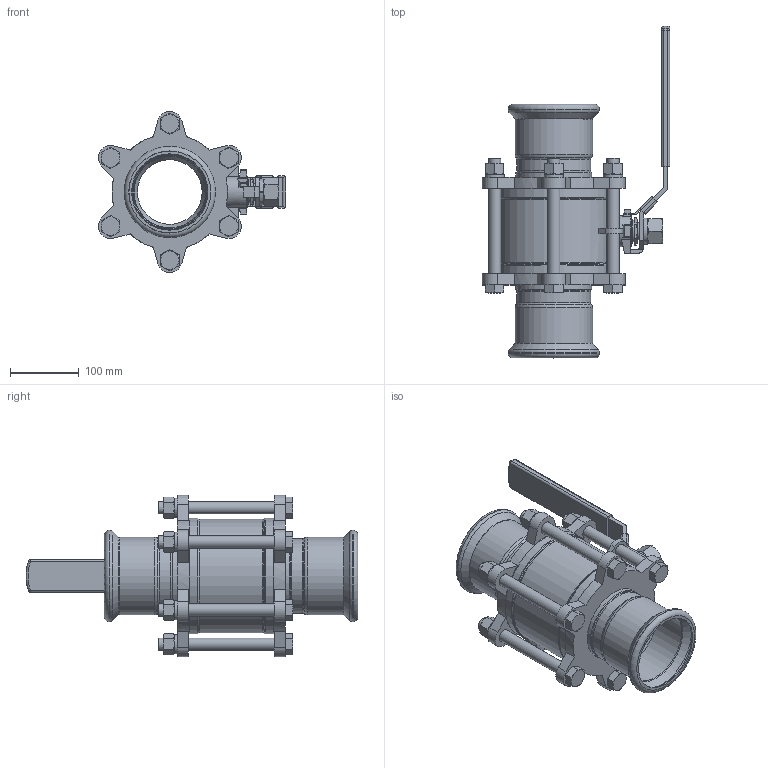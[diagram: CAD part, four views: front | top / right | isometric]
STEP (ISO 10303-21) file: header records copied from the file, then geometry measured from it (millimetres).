
FILE_DESCRIPTION(('STEP AP214'),'1');
FILE_NAME('4.stp','2025-03-26T07:38:36',(' '),(' '),'Spatial InterOp 3D',' ',' ');
FILE_SCHEMA(('AUTOMOTIVE_DESIGN { 1 0 10303 214 1 1 1 1 }'));
Length unit declared in the file: millimetre
Products named in the file (21): 3PC卡压球阀4; 压紧螺母; 填料; 阀杆; 小片; 球; 焊接阀盖; 半截接头; 阀体; 阀座; 垫圈 ： 单圈弹簧 - M18.0 x 4.5; 螺母 ： 标准 - M18.0 x 15.8; 螺栓 ： 六角头 - M18.0 x 184.0; 垫圈 ： 单圈弹簧 - M24.0 x 6.0; 螺母 ： 标准 - M24.0 x 21.5; 手柄套; 锁块; 手柄
Assembly tree (35 placements, depth 2):
  3PC卡压球阀4
    压紧螺母
    填料
    阀杆
    小片
    球
    焊接阀盖
    半截接头
    阀体
    半截接头
    焊接阀盖
    阀座
    阀座
    垫圈 ： 单圈弹簧 - M18.0 x 4.5  x6
    螺母 ： 标准 - M18.0 x 15.8  x6
    螺栓 ： 六角头 - M18.0 x 184.0  x6
    垫圈 ： 单圈弹簧 - M24.0 x 6.0
    螺母 ： 标准 - M24.0 x 21.5
    手柄套
    锁块
    手柄
Bounding box: 272.34 x 482.57 x 234.37 mm (x, y, z)
Volume: 2987450.2 mm3; surface area: 807283.8 mm2
Topology: 35 solids, 35 shells, 653 faces, 1480 edges, 912 vertices
Faces by surface type: plane 309, cone 160, cylinder 139, torus 25, bspline 14, sphere 6
Full cylindrical faces by diameter (mm): 7.5 x1, 18 x12, 19 x2, 19.2 x12, 24 x1, 25 x2, 25.2 x1, 25.4 x1, 25.6 x1, 29.5 x1, 30 x1, 31 x1, 32 x1, 33.3 x1, 33.4 x1, 35 x1, 45 x1, 94 x5, 104 x4, 108 x4, 108.8 x2, 110 x2, 111 x2, 112.8 x2, 132.8 x2, 150 x1, 152 x4, 160 x4, 165 x1, 168 x4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
Entity records: 16613 total; most frequent: CARTESIAN_POINT 3019, DIRECTION 2103, ORIENTED_EDGE 1770, EDGE_CURVE 885, AXIS2_PLACEMENT_3D 852, EDGE_LOOP 627, VERTEX_POINT 626, FACE_OUTER_BOUND 524
